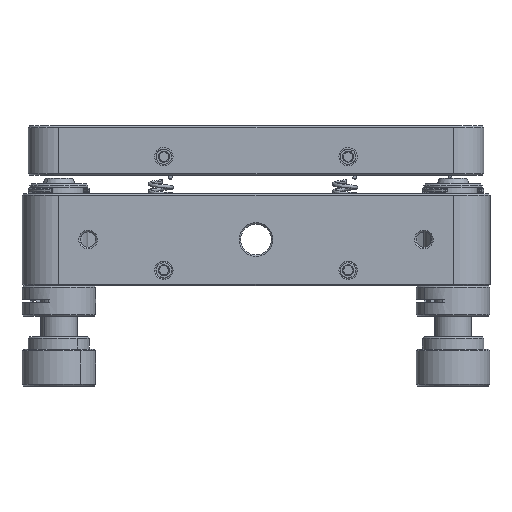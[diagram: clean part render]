
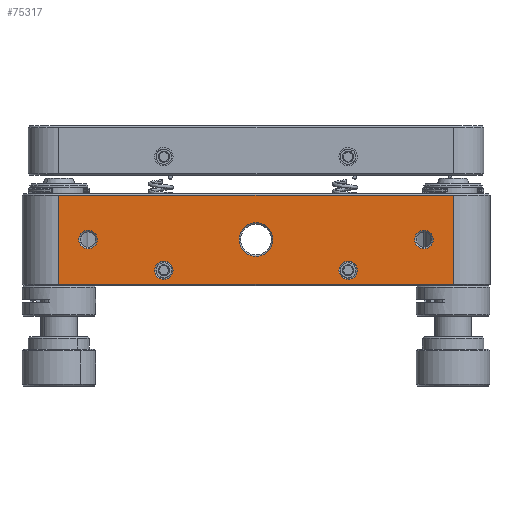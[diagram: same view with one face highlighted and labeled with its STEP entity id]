
A CAD part, front view. The second image highlights one B-rep face of the part: STEP entity #75317.
In plain terms, the highlighted planar face has unit normal (0, -1, 0).
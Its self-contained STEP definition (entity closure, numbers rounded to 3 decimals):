
#52 = FACE_BOUND ( 'NONE', #63087, .T. ) ;
#181 = CARTESIAN_POINT ( 'NONE',  ( 27.35, -38.1, -1.5 ) ) ;
#434 = CARTESIAN_POINT ( 'NONE',  ( -38.1, -38.1, 7.5 ) ) ;
#1416 = AXIS2_PLACEMENT_3D ( 'NONE', #35234, #46083, #41405 ) ;
#1796 = DIRECTION ( 'NONE',  ( 0., 1., 0. ) ) ;
#3296 = CIRCLE ( 'NONE', #46539, 1.5 ) ;
#4986 = CARTESIAN_POINT ( 'NONE',  ( -27.35, -38.1, 0. ) ) ;
#5111 = ORIENTED_EDGE ( 'NONE', *, *, #70057, .T. ) ;
#5134 = EDGE_LOOP ( 'NONE', ( #52421, #72638, #23179, #28805 ) ) ;
#5215 = CARTESIAN_POINT ( 'NONE',  ( 0., -38.1, 0. ) ) ;
#5663 = AXIS2_PLACEMENT_3D ( 'NONE', #76224, #75456, #64951 ) ;
#6591 = FACE_BOUND ( 'NONE', #33398, .T. ) ;
#7873 = VERTEX_POINT ( 'NONE', #36284 ) ;
#7911 = AXIS2_PLACEMENT_3D ( 'NONE', #434, #53031, #70050 ) ;
#9488 = DIRECTION ( 'NONE',  ( 0., 1., 0. ) ) ;
#10226 = ORIENTED_EDGE ( 'NONE', *, *, #27384, .T. ) ;
#11359 = CARTESIAN_POINT ( 'NONE',  ( -32.1, -38.1, 7.5 ) ) ;
#11393 = DIRECTION ( 'NONE',  ( 0., 0., 1. ) ) ;
#11488 = EDGE_CURVE ( 'NONE', #63006, #74539, #64437, .T. ) ;
#11496 = AXIS2_PLACEMENT_3D ( 'NONE', #50625, #33234, #74219 ) ;
#12014 = AXIS2_PLACEMENT_3D ( 'NONE', #28055, #9488, #45465 ) ;
#12024 = FACE_OUTER_BOUND ( 'NONE', #5134, .T. ) ;
#12279 = CARTESIAN_POINT ( 'NONE',  ( -27.35, -38.1, 1.5 ) ) ;
#12310 = VERTEX_POINT ( 'NONE', #181 ) ;
#12584 = CIRCLE ( 'NONE', #66954, 1.5 ) ;
#13761 = DIRECTION ( 'NONE',  ( 0., 0., 1. ) ) ;
#14195 = CIRCLE ( 'NONE', #56208, 1.5 ) ;
#14534 = VERTEX_POINT ( 'NONE', #64560 ) ;
#15283 = VECTOR ( 'NONE', #66896, 1000. ) ;
#16172 = CARTESIAN_POINT ( 'NONE',  ( 32.1, -38.1, -7.25 ) ) ;
#16505 = DIRECTION ( 'NONE',  ( 0., 0., 1. ) ) ;
#16735 = EDGE_CURVE ( 'NONE', #26803, #7873, #69376, .T. ) ;
#16764 = CARTESIAN_POINT ( 'NONE',  ( -38.1, -38.1, -7.25 ) ) ;
#16985 = DIRECTION ( 'NONE',  ( 0., 0., 1. ) ) ;
#17201 = CARTESIAN_POINT ( 'NONE',  ( -27.35, -38.1, -1.5 ) ) ;
#17450 = FACE_BOUND ( 'NONE', #47616, .T. ) ;
#19953 = AXIS2_PLACEMENT_3D ( 'NONE', #76402, #47754, #24539 ) ;
#21766 = VERTEX_POINT ( 'NONE', #16172 ) ;
#21928 = CARTESIAN_POINT ( 'NONE',  ( -15., -38.1, -3.5 ) ) ;
#22303 = DIRECTION ( 'NONE',  ( 0., 0., 1. ) ) ;
#22663 = DIRECTION ( 'NONE',  ( 0., 0., 1. ) ) ;
#23179 = ORIENTED_EDGE ( 'NONE', *, *, #16735, .T. ) ;
#23296 = VERTEX_POINT ( 'NONE', #38513 ) ;
#23570 = ORIENTED_EDGE ( 'NONE', *, *, #51663, .T. ) ;
#24539 = DIRECTION ( 'NONE',  ( 0., 0., 1. ) ) ;
#24704 = CARTESIAN_POINT ( 'NONE',  ( 15., -38.1, -6.5 ) ) ;
#25164 = CARTESIAN_POINT ( 'NONE',  ( -15., -38.1, -6.5 ) ) ;
#25171 = CARTESIAN_POINT ( 'NONE',  ( -32.1, -38.1, 7.25 ) ) ;
#26461 = EDGE_CURVE ( 'NONE', #7873, #21766, #69728, .T. ) ;
#26803 = VERTEX_POINT ( 'NONE', #73161 ) ;
#26921 = EDGE_LOOP ( 'NONE', ( #59189, #41654 ) ) ;
#27384 = EDGE_CURVE ( 'NONE', #40790, #69792, #39011, .T. ) ;
#28055 = CARTESIAN_POINT ( 'NONE',  ( 15., -38.1, -5. ) ) ;
#28114 = DIRECTION ( 'NONE',  ( 0., 1., 0. ) ) ;
#28805 = ORIENTED_EDGE ( 'NONE', *, *, #26461, .T. ) ;
#28857 = EDGE_CURVE ( 'NONE', #52273, #34677, #3296, .T. ) ;
#30380 = CARTESIAN_POINT ( 'NONE',  ( 0., -38.1, 2.75 ) ) ;
#31852 = EDGE_CURVE ( 'NONE', #21766, #57140, #64023, .T. ) ;
#33234 = DIRECTION ( 'NONE',  ( 0., 1., 0. ) ) ;
#33398 = EDGE_LOOP ( 'NONE', ( #10226, #52598 ) ) ;
#34677 = VERTEX_POINT ( 'NONE', #12279 ) ;
#34753 = CIRCLE ( 'NONE', #19953, 1.5 ) ;
#35234 = CARTESIAN_POINT ( 'NONE',  ( -15., -38.1, -5. ) ) ;
#36284 = CARTESIAN_POINT ( 'NONE',  ( -32.1, -38.1, -7.25 ) ) ;
#37017 = EDGE_CURVE ( 'NONE', #57140, #26803, #54188, .T. ) ;
#37348 = CIRCLE ( 'NONE', #47216, 1.5 ) ;
#38513 = CARTESIAN_POINT ( 'NONE',  ( 27.35, -38.1, 1.5 ) ) ;
#39011 = CIRCLE ( 'NONE', #5663, 1.5 ) ;
#39237 = VECTOR ( 'NONE', #22663, 1000. ) ;
#39657 = DIRECTION ( 'NONE',  ( 0., 1., 0. ) ) ;
#40013 = DIRECTION ( 'NONE',  ( 0., 0., -1. ) ) ;
#40361 = DIRECTION ( 'NONE',  ( 1., 0., 0. ) ) ;
#40790 = VERTEX_POINT ( 'NONE', #25164 ) ;
#40949 = DIRECTION ( 'NONE',  ( 0., 1., 0. ) ) ;
#41405 = DIRECTION ( 'NONE',  ( 0., 0., 1. ) ) ;
#41654 = ORIENTED_EDGE ( 'NONE', *, *, #69906, .T. ) ;
#41798 = FACE_BOUND ( 'NONE', #64420, .T. ) ;
#42278 = CARTESIAN_POINT ( 'NONE',  ( 32.1, -38.1, 7.25 ) ) ;
#44839 = CIRCLE ( 'NONE', #11496, 2.75 ) ;
#45363 = EDGE_CURVE ( 'NONE', #47324, #14534, #73751, .T. ) ;
#45465 = DIRECTION ( 'NONE',  ( 0., 0., 1. ) ) ;
#46083 = DIRECTION ( 'NONE',  ( 0., 1., 0. ) ) ;
#46539 = AXIS2_PLACEMENT_3D ( 'NONE', #4986, #40949, #16985 ) ;
#47181 = AXIS2_PLACEMENT_3D ( 'NONE', #5215, #39657, #11393 ) ;
#47216 = AXIS2_PLACEMENT_3D ( 'NONE', #63660, #68699, #16505 ) ;
#47324 = VERTEX_POINT ( 'NONE', #24704 ) ;
#47616 = EDGE_LOOP ( 'NONE', ( #23570, #5111 ) ) ;
#47754 = DIRECTION ( 'NONE',  ( 0., 1., 0. ) ) ;
#50625 = CARTESIAN_POINT ( 'NONE',  ( 0., -38.1, 0. ) ) ;
#51663 = EDGE_CURVE ( 'NONE', #12310, #23296, #14195, .T. ) ;
#52273 = VERTEX_POINT ( 'NONE', #17201 ) ;
#52421 = ORIENTED_EDGE ( 'NONE', *, *, #31852, .T. ) ;
#52598 = ORIENTED_EDGE ( 'NONE', *, *, #62317, .T. ) ;
#53031 = DIRECTION ( 'NONE',  ( 0., 1., 0. ) ) ;
#54188 = LINE ( 'NONE', #25171, #15283 ) ;
#54516 = CARTESIAN_POINT ( 'NONE',  ( 0., -38.1, -2.75 ) ) ;
#54777 = CARTESIAN_POINT ( 'NONE',  ( 27.35, -38.1, 0. ) ) ;
#55228 = ORIENTED_EDGE ( 'NONE', *, *, #28857, .T. ) ;
#56208 = AXIS2_PLACEMENT_3D ( 'NONE', #54777, #1796, #13761 ) ;
#57026 = VECTOR ( 'NONE', #40013, 1000. ) ;
#57140 = VERTEX_POINT ( 'NONE', #42278 ) ;
#59189 = ORIENTED_EDGE ( 'NONE', *, *, #45363, .T. ) ;
#62317 = EDGE_CURVE ( 'NONE', #69792, #40790, #68059, .T. ) ;
#62467 = ORIENTED_EDGE ( 'NONE', *, *, #72880, .T. ) ;
#62514 = EDGE_CURVE ( 'NONE', #34677, #52273, #34753, .T. ) ;
#62891 = CARTESIAN_POINT ( 'NONE',  ( 27.35, -38.1, 0. ) ) ;
#63006 = VERTEX_POINT ( 'NONE', #54516 ) ;
#63087 = EDGE_LOOP ( 'NONE', ( #55228, #72054 ) ) ;
#63660 = CARTESIAN_POINT ( 'NONE',  ( 15., -38.1, -5. ) ) ;
#64023 = LINE ( 'NONE', #75646, #39237 ) ;
#64420 = EDGE_LOOP ( 'NONE', ( #66633, #62467 ) ) ;
#64437 = CIRCLE ( 'NONE', #47181, 2.75 ) ;
#64560 = CARTESIAN_POINT ( 'NONE',  ( 15., -38.1, -3.5 ) ) ;
#64609 = FACE_BOUND ( 'NONE', #26921, .T. ) ;
#64951 = DIRECTION ( 'NONE',  ( 0., 0., 1. ) ) ;
#64984 = PLANE ( 'NONE',  #7911 ) ;
#66633 = ORIENTED_EDGE ( 'NONE', *, *, #11488, .T. ) ;
#66896 = DIRECTION ( 'NONE',  ( -1., 0., 0. ) ) ;
#66954 = AXIS2_PLACEMENT_3D ( 'NONE', #62891, #28114, #22303 ) ;
#68059 = CIRCLE ( 'NONE', #1416, 1.5 ) ;
#68699 = DIRECTION ( 'NONE',  ( 0., 1., 0. ) ) ;
#69376 = LINE ( 'NONE', #11359, #57026 ) ;
#69728 = LINE ( 'NONE', #16764, #74855 ) ;
#69792 = VERTEX_POINT ( 'NONE', #21928 ) ;
#69906 = EDGE_CURVE ( 'NONE', #14534, #47324, #37348, .T. ) ;
#70050 = DIRECTION ( 'NONE',  ( 0., 0., 1. ) ) ;
#70057 = EDGE_CURVE ( 'NONE', #23296, #12310, #12584, .T. ) ;
#72054 = ORIENTED_EDGE ( 'NONE', *, *, #62514, .T. ) ;
#72638 = ORIENTED_EDGE ( 'NONE', *, *, #37017, .T. ) ;
#72880 = EDGE_CURVE ( 'NONE', #74539, #63006, #44839, .T. ) ;
#73161 = CARTESIAN_POINT ( 'NONE',  ( -32.1, -38.1, 7.25 ) ) ;
#73751 = CIRCLE ( 'NONE', #12014, 1.5 ) ;
#74219 = DIRECTION ( 'NONE',  ( 0., 0., 1. ) ) ;
#74539 = VERTEX_POINT ( 'NONE', #30380 ) ;
#74855 = VECTOR ( 'NONE', #40361, 1000. ) ;
#75317 = ADVANCED_FACE ( 'NONE', ( #17450, #64609, #41798, #6591, #52, #12024 ), #64984, .F. ) ;
#75456 = DIRECTION ( 'NONE',  ( 0., 1., 0. ) ) ;
#75646 = CARTESIAN_POINT ( 'NONE',  ( 32.1, -38.1, 7.5 ) ) ;
#76224 = CARTESIAN_POINT ( 'NONE',  ( -15., -38.1, -5. ) ) ;
#76402 = CARTESIAN_POINT ( 'NONE',  ( -27.35, -38.1, 0. ) ) ;
